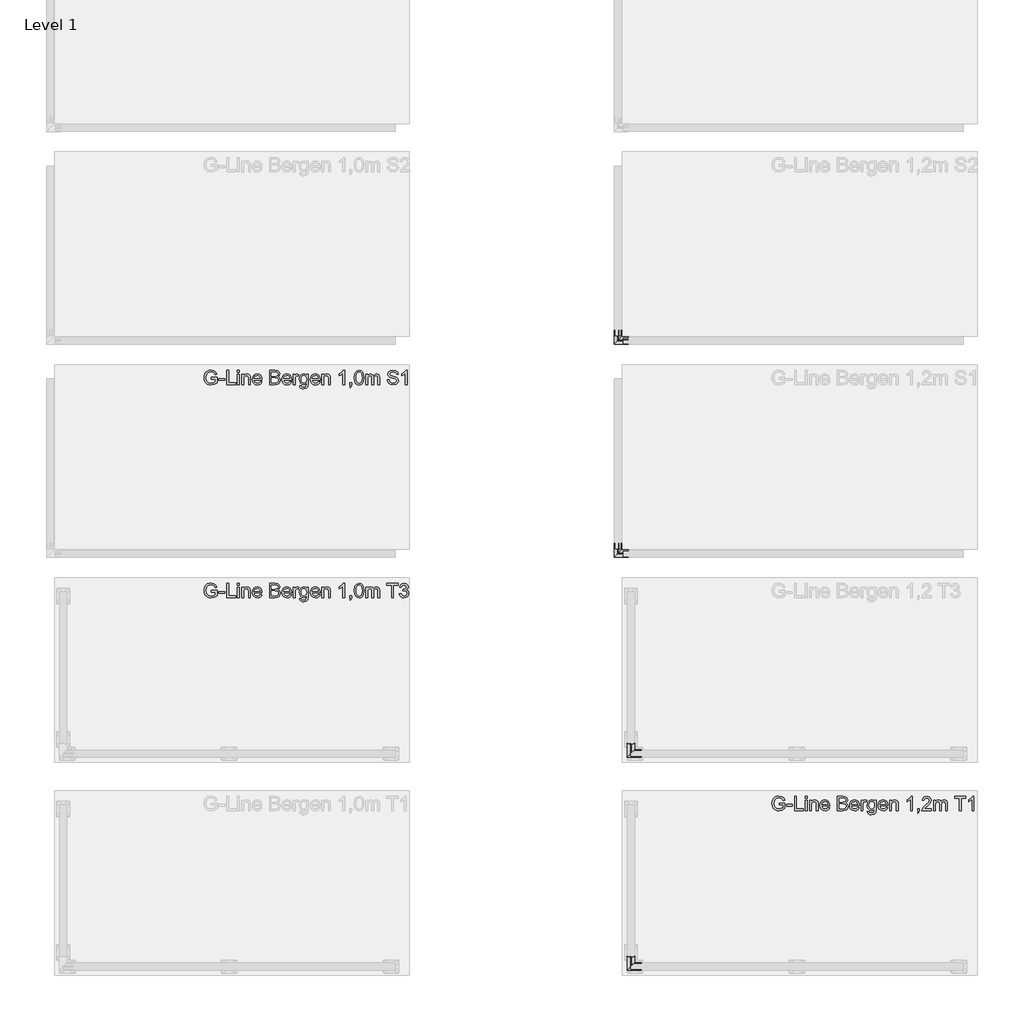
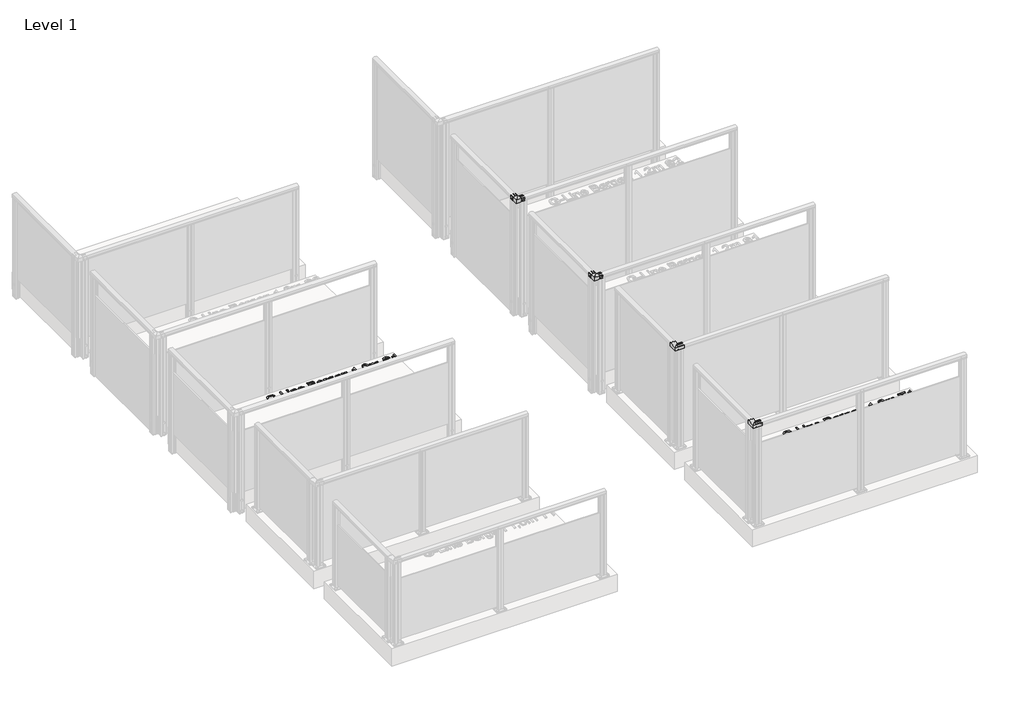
# One storey, part 53 of 66: 7 proxies.
"""IFC4 building model written with IfcOpenShell, lengths in millimetres."""

from ifc_helpers import new_model, si_unit, origin, origin_with_axes, place, context, project, spatial, polyline, outline, extrude, transform, mapped, element, save
from components import generic_models_029e0633

model = new_model("IFC4")

# Units and contexts
model_context = context("Model", 3, world=origin())
ifc_project = project(units=[si_unit("LENGTHUNIT", "METRE", prefix="MILLI")], contexts=[model_context])

# Site, building, storey
site = spatial("IfcSite", under=ifc_project)
building = spatial("IfcBuilding", under=site)
storey = spatial("IfcBuildingStorey", under=building, Name="Level 1", Elevation=0.0)

# Proxies
placement = place(None, origin())
generic_models_shape = generic_models_029e0633(model_context)
element("IfcBuildingElementProxy", 1, Name="Innore top rail 51x43 corner element : Innore top rail 51x43 element", ObjectType="Innore top rail 51x43 corner element : Innore top rail 51x43 element", at=placement, inside=storey, context=model_context, shape_type="MappedRepresentation", body=[
    mapped(generic_models_shape, transform((8556.5263105, -4420.1018151, 1200.0), x_axis=(0.0, -1.0, 0.0), y_axis=(1.0, 0.0, 0.0), z_axis=(0.0, 0.0, 1.0))),
])
element("IfcBuildingElementProxy", 2, Name="Innore top rail 51x43 corner element : Innore top rail 51x43 element", ObjectType="Innore top rail 51x43 corner element : Innore top rail 51x43 element", at=placement, inside=storey, context=model_context, shape_type="MappedRepresentation", body=[
    mapped(generic_models_shape, transform((8556.5263105, -2920.1018151, 1200.0), x_axis=(0.0, -1.0, 0.0), y_axis=(1.0, 0.0, 0.0), z_axis=(0.0, 0.0, 1.0))),
])
element("IfcBuildingElementProxy", 3, Name="Innore top rail 51x43 corner element : Innore top rail 51x43 element", ObjectType="Innore top rail 51x43 corner element : Innore top rail 51x43 element", at=placement, inside=storey, context=model_context, shape_type="MappedRepresentation", body=[
    mapped(generic_models_shape, transform((8466.5256066, -1511.0906302, 1200.0), x_axis=(0.0, -1.0, 0.0), y_axis=(1.0, 0.0, 0.0), z_axis=(0.0, 0.0, 1.0))),
])
element("IfcBuildingElementProxy", 4, Name="Innore top rail 51x43 corner element : Innore top rail 51x43 element", ObjectType="Innore top rail 51x43 corner element : Innore top rail 51x43 element", at=placement, inside=storey, context=model_context, shape_type="MappedRepresentation", body=[
    mapped(generic_models_shape, transform((8466.5256066, -11.0906302, 1200.0), x_axis=(0.0, -1.0, 0.0), y_axis=(1.0, 0.0, 0.0), z_axis=(0.0, 0.0, 1.0))),
])
element("IfcBuildingElementProxy", 5, Name="100mm Arial", ObjectType="100mm Arial", at=placement, inside=storey, context=model_context, shape_type="SweptSolid", body=[
    extrude(outline(polyline([(5601.1253773, -1781.8776559), (5601.1253773, -1769.3206172), (5641.9357533, -1769.3206172), (5641.9357533, -1806.8691061), (5621.7880827, -1818.7149064), (5600.4877152, -1822.6880319), (5586.4009005, -1821.109205), (5573.6691178, -1816.3727243), (5563.0925104, -1808.6441368), (5555.4712217, -1798.0889892), (5550.8634997, -1785.4277172), (5549.3275924, -1771.3807563), (5550.8573684, -1757.2326279), (5555.4466963, -1744.0716496), (5562.9055037, -1733.032124), (5573.0437184, -1725.2483541), (5585.3922907, -1720.6314351), (5599.4821711, -1719.0924621), (5619.1270696, -1722.6609174), (5632.898119, -1732.5937313), (5640.4887508, -1749.2097348), (5628.9127307, -1752.4716218), (5623.1860343, -1740.8588135), (5613.4003732, -1734.1633612), (5599.2859674, -1731.6495009), (5583.2095242, -1734.3595649), (5572.2711662, -1741.4719501), (5565.8087058, -1751.1472466), (5561.8846312, -1770.8657215), (5566.6057835, -1792.7547003), (5580.3400446, -1805.8512993), (5599.4821711, -1810.1309932), (5616.6622603, -1806.9058943), (5629.3787146, -1800.026501), (5629.3787146, -1781.8776559), (5601.1253773, -1781.8776559)])), origin_with_axes(), (0.0, 0.0, 1.0), 10.0),
    extrude(outline(polyline([(5654.4927921, -1791.295435), (5654.4927921, -1778.7383962), (5693.7335383, -1778.7383962), (5693.7335383, -1791.295435), (5654.4927921, -1791.295435)])), origin_with_axes(), (0.0, 0.0, 1.0), 10.0),
    extrude(outline(polyline([(5709.4298367, -1821.1184021), (5709.4298367, -1720.6620919), (5721.9868755, -1720.6620919), (5721.9868755, -1808.5613633), (5772.2150306, -1808.5613633), (5772.2150306, -1821.1184021), (5709.4298367, -1821.1184021)])), origin_with_axes(), (0.0, 0.0, 1.0), 10.0),
    extrude(outline(polyline([(5784.7720693, -1733.2191307), (5784.7720693, -1720.6620919), (5797.3291081, -1720.6620919), (5797.3291081, -1733.2191307), (5784.7720693, -1733.2191307)])), origin_with_axes(), (0.0, 0.0, 1.0), 10.0),
    extrude(outline(polyline([(5784.7720693, -1821.1184021), (5784.7720693, -1747.3457993), (5797.3291081, -1747.3457993), (5797.3291081, -1821.1184021), (5784.7720693, -1821.1184021)])), origin_with_axes(), (0.0, 0.0, 1.0), 10.0),
    extrude(outline(polyline([(5816.1646663, -1821.1184021), (5816.1646663, -1747.3457993), (5828.721705, -1747.3457993), (5828.721705, -1757.6464952), (5838.3234251, -1748.7437509), (5851.4322869, -1745.7761695), (5863.2903498, -1748.1674024), (5871.3837537, -1754.4459218), (5875.1484128, -1763.6797599), (5875.8106004, -1775.8198657), (5875.8106004, -1821.1184021), (5863.2535616, -1821.1184021), (5863.2535616, -1777.5121229), (5861.8065591, -1766.4020867), (5856.6929994, -1760.5282375), (5848.072298, -1758.3332082), (5834.4484014, -1763.262827), (5830.1533791, -1770.405869), (5828.721705, -1781.9757578), (5828.721705, -1821.1184021), (5816.1646663, -1821.1184021)])), origin_with_axes(), (0.0, 0.0, 1.0), 10.0),
    extrude(outline(polyline([(5944.7271608, -1799.1435842), (5957.0389449, -1800.7132141), (5952.6029012, -1809.9899717), (5945.5242385, -1816.9245473), (5935.9623723, -1821.2471608), (5924.0767182, -1822.6880319), (5909.3430443, -1820.2017628), (5898.0061474, -1812.7429553), (5890.7772662, -1800.7959875), (5888.3676392, -1784.8452374), (5890.8017917, -1768.3579926), (5898.1042493, -1756.0278144), (5909.287862, -1748.3390807), (5923.3654796, -1745.7761695), (5937.0047046, -1748.3329493), (5947.9032087, -1756.0032889), (5955.0493165, -1768.3089417), (5957.4313524, -1784.771661), (5957.357776, -1788.1561753), (5900.9246779, -1788.1561753), (5903.0982474, -1797.5555603), (5908.1474278, -1804.4656104), (5915.434557, -1808.7146475), (5924.3219728, -1810.1309932), (5936.6337569, -1807.5067683), (5944.7271608, -1799.1435842)]), holes=[polyline([(5900.9246779, -1775.5991365), (5944.8743136, -1775.5991365), (5939.846593, -1764.2193202), (5932.5257413, -1759.8047362), (5923.3164287, -1758.3332082), (5907.8531222, -1763.029835), (5902.9878828, -1768.5204738), (5900.9246779, -1775.5991365)])]), origin_with_axes(), (0.0, 0.0, 1.0), 10.0),
    extrude(outline(polyline([(6010.7987672, -1821.1184021), (6010.7987672, -1720.6620919), (6049.1320711, -1720.6620919), (6067.9063156, -1723.6174106), (6078.9918263, -1732.7040959), (6083.0017401, -1745.5554403), (6079.6294885, -1757.2908759), (6069.4391572, -1766.1813575), (6081.812255, -1775.5500856), (6086.1409998, -1791.1728077), (6083.1856811, -1804.6740769), (6075.8648294, -1814.2880597), (6064.9387341, -1819.3893567), (6048.8377655, -1821.1184021), (6010.7987672, -1821.1184021)]), holes=[polyline([(6023.3558059, -1761.4724679), (6046.287117, -1761.4724679), (6059.6780216, -1760.3933474), (6067.7346373, -1755.7457715), (6070.4447013, -1747.5665285), (6067.9185783, -1739.3750228), (6060.6835657, -1734.5312431), (6044.5458089, -1733.2191307), (6023.3558059, -1733.2191307), (6023.3558059, -1761.4724679)]), polyline([(6023.3558059, -1808.5613633), (6049.1075456, -1808.5613633), (6058.4272228, -1808.070854), (6066.3121602, -1805.3362645), (6071.5360846, -1799.7567209), (6073.583961, -1791.295435), (6071.1804653, -1781.5342994), (6063.3936297, -1775.7095011), (6047.8812723, -1774.0295067), (6023.3558059, -1774.0295067), (6023.3558059, -1808.5613633)])]), origin_with_axes(), (0.0, 0.0, 1.0), 10.0),
    extrude(outline(polyline([(6153.4879304, -1799.1435842), (6165.7997145, -1800.7132141), (6161.3636707, -1809.9899717), (6154.285008, -1816.9245473), (6144.7231418, -1821.2471608), (6132.8374877, -1822.6880319), (6118.1038138, -1820.2017628), (6106.766917, -1812.7429553), (6099.5380358, -1800.7959875), (6097.1284087, -1784.8452374), (6099.5625612, -1768.3579926), (6106.8650188, -1756.0278144), (6118.0486315, -1748.3390807), (6132.1262492, -1745.7761695), (6145.7654741, -1748.3329493), (6156.6639783, -1756.0032889), (6163.810086, -1768.3089417), (6166.1921219, -1784.771661), (6166.1185455, -1788.1561753), (6109.6854475, -1788.1561753), (6111.8590169, -1797.5555603), (6116.9081973, -1804.4656104), (6124.1953265, -1808.7146475), (6133.0827424, -1810.1309932), (6145.3945265, -1807.5067683), (6153.4879304, -1799.1435842)]), holes=[polyline([(6109.6854475, -1775.5991365), (6153.6350832, -1775.5991365), (6148.6073626, -1764.2193202), (6141.2865109, -1759.8047362), (6132.0771982, -1758.3332082), (6116.6138917, -1763.029835), (6111.7486523, -1768.5204738), (6109.6854475, -1775.5991365)])]), origin_with_axes(), (0.0, 0.0, 1.0), 10.0),
    extrude(outline(polyline([(6178.7491607, -1821.1184021), (6178.7491607, -1747.3457993), (6189.7365696, -1747.3457993), (6189.7365696, -1758.2596318), (6197.5356679, -1748.2041906), (6205.3838171, -1745.7761695), (6217.9899068, -1749.6511932), (6213.7960521, -1760.9083822), (6204.9668842, -1758.3332082), (6197.8667617, -1760.8102803), (6193.3418132, -1767.6774109), (6191.3061995, -1782.3436398), (6191.3061995, -1821.1184021), (6178.7491607, -1821.1184021)])), origin_with_axes(), (0.0, 0.0, 1.0), 10.0),
    extrude(outline(polyline([(6222.6987964, -1827.3969215), (6235.2558352, -1828.9665513), (6239.3270626, -1835.5884272), (6251.5162193, -1838.3843304), (6264.3675637, -1835.2205452), (6270.4989303, -1826.3423264), (6271.3573216, -1811.700623), (6262.515891, -1818.7639573), (6251.7369485, -1821.1184021), (6238.790568, -1818.3776812), (6229.1367313, -1810.1555186), (6223.1310577, -1798.1012519), (6221.1291665, -1783.8642187), (6224.7221474, -1764.4032612), (6235.1209451, -1750.6322118), (6251.1238119, -1745.7761695), (6262.3258186, -1748.5230217), (6271.3573216, -1756.7635784), (6271.3573216, -1747.3457993), (6283.9143604, -1747.3457993), (6283.9143604, -1811.0384354), (6280.4807951, -1835.4290117), (6269.6037508, -1846.7720399), (6251.2709647, -1850.9413692), (6239.5876456, -1849.4729069), (6230.3875301, -1845.06752), (6224.4860897, -1837.7129457), (6222.6987964, -1827.3969215)]), holes=[polyline([(6233.6862053, -1783.0058274), (6235.0259089, -1794.5235995), (6239.0450197, -1802.4422595), (6245.0874815, -1807.0315873), (6252.497238, -1808.5613633), (6259.8518122, -1807.0407844), (6265.9249308, -1802.4790477), (6269.9992239, -1794.6615553), (6271.3573216, -1783.3737094), (6269.95937, -1772.487468), (6265.7655153, -1764.6485158), (6259.6034919, -1759.9120351), (6252.3010343, -1758.3332082), (6245.130401, -1759.8875097), (6239.1185961, -1764.550414), (6235.044303, -1772.2728702), (6233.6862053, -1783.0058274)])]), origin_with_axes(), (0.0, 0.0, 1.0), 10.0),
    extrude(outline(polyline([(6354.4005507, -1799.1435842), (6366.7123348, -1800.7132141), (6362.276291, -1809.9899717), (6355.1976283, -1816.9245473), (6345.6357621, -1821.2471608), (6333.750108, -1822.6880319), (6319.0164341, -1820.2017628), (6307.6795373, -1812.7429553), (6300.4506561, -1800.7959875), (6298.041029, -1784.8452374), (6300.4751815, -1768.3579926), (6307.7776391, -1756.0278144), (6318.9612518, -1748.3390807), (6333.0388695, -1745.7761695), (6346.6780944, -1748.3329493), (6357.5765986, -1756.0032889), (6364.7227063, -1768.3089417), (6367.1047422, -1784.771661), (6367.0311658, -1788.1561753), (6310.5980678, -1788.1561753), (6312.7716372, -1797.5555603), (6317.8208176, -1804.4656104), (6325.1079468, -1808.7146475), (6333.9953627, -1810.1309932), (6346.3071468, -1807.5067683), (6354.4005507, -1799.1435842)]), holes=[polyline([(6310.5980678, -1775.5991365), (6354.5477035, -1775.5991365), (6349.5199829, -1764.2193202), (6342.1991312, -1759.8047362), (6332.9898185, -1758.3332082), (6317.526512, -1763.029835), (6312.6612726, -1768.5204738), (6310.5980678, -1775.5991365)])]), origin_with_axes(), (0.0, 0.0, 1.0), 10.0),
    extrude(outline(polyline([(6379.661781, -1821.1184021), (6379.661781, -1747.3457993), (6392.2188198, -1747.3457993), (6392.2188198, -1757.6464952), (6401.8205398, -1748.7437509), (6414.9294016, -1745.7761695), (6426.7874646, -1748.1674024), (6434.8808685, -1754.4459218), (6438.6455276, -1763.6797599), (6439.3077151, -1775.8198657), (6439.3077151, -1821.1184021), (6426.7506764, -1821.1184021), (6426.7506764, -1777.5121229), (6425.3036739, -1766.4020867), (6420.1901141, -1760.5282375), (6411.5694127, -1758.3332082), (6397.9455162, -1763.262827), (6393.6504939, -1770.405869), (6392.2188198, -1781.9757578), (6392.2188198, -1821.1184021), (6379.661781, -1821.1184021)])), origin_with_axes(), (0.0, 0.0, 1.0), 10.0),
    extrude(outline(polyline([(6539.7640253, -1821.1184021), (6527.2069865, -1821.1184021), (6527.2069865, -1742.8331135), (6515.3121354, -1751.3066621), (6502.092909, -1757.6464952), (6502.092909, -1745.7761695), (6520.4992715, -1734.0284711), (6531.6706214, -1720.6620919), (6539.7640253, -1720.6620919), (6539.7640253, -1821.1184021)])), origin_with_axes(), (0.0, 0.0, 1.0), 10.0),
    extrude(outline(polyline([(6575.8655118, -1821.1184021), (6575.8655118, -1808.5613633), (6588.4225505, -1808.5613633), (6588.4225505, -1821.1184021), (6586.1662076, -1833.9574837), (6579.0047714, -1841.5235901), (6575.8655118, -1836.8147005), (6580.4762994, -1831.3945725), (6582.1195057, -1821.1184021), (6575.8655118, -1821.1184021)])), origin_with_axes(), (0.0, 0.0, 1.0), 10.0),
    extrude(outline(polyline([(6608.8277385, -1771.6995874), (6612.5188212, -1742.7963253), (6623.4817047, -1726.1312709), (6641.7899653, -1720.6620919), (6656.4561942, -1723.8994535), (6666.5852118, -1733.2313934), (6672.4713237, -1748.093826), (6674.7521921, -1771.6995874), (6671.0978976, -1800.4802222), (6660.1718023, -1817.1820647), (6651.9404427, -1821.3115401), (6641.7899653, -1822.6880319), (6628.7424172, -1820.296799), (6618.8341288, -1813.1231001), (6611.3293361, -1796.1330832), (6608.8277385, -1771.6995874)]), holes=[polyline([(6621.3847773, -1771.6750619), (6622.8563053, -1791.4272594), (6627.2708892, -1802.8591924), (6633.8437142, -1808.313043), (6641.7899653, -1810.1309932), (6649.7362164, -1808.3069116), (6656.3090414, -1802.8346669), (6660.7236253, -1791.3966026), (6662.1951533, -1771.6750619), (6660.7726762, -1752.3673885), (6656.5052451, -1740.8465507), (6649.9446829, -1735.1259857), (6641.6428125, -1733.2191307), (6633.7824005, -1734.8991251), (6627.4670929, -1739.9391085), (6622.9053562, -1752.1773162), (6621.3847773, -1771.6750619)])]), origin_with_axes(), (0.0, 0.0, 1.0), 10.0),
    extrude(outline(polyline([(6688.8788607, -1821.1184021), (6688.8788607, -1747.3457993), (6701.4358994, -1747.3457993), (6701.4358994, -1759.4859052), (6710.0688636, -1749.5408286), (6722.3561222, -1745.7761695), (6734.9376865, -1749.614405), (6741.853868, -1760.3688219), (6751.6517918, -1749.4243326), (6764.0248896, -1745.7761695), (6773.4641284, -1747.2936827), (6780.4446893, -1751.8462224), (6784.7581057, -1759.5564159), (6786.1959111, -1770.5468905), (6786.1959111, -1821.1184021), (6773.6388724, -1821.1184021), (6773.6388724, -1775.9424931), (6772.4739127, -1765.4578562), (6768.2555325, -1760.2952455), (6761.0818336, -1758.3332082), (6748.7332613, -1763.3609288), (6745.0452443, -1769.903097), (6743.8159053, -1779.4741602), (6743.8159053, -1821.1184021), (6731.2588665, -1821.1184021), (6731.2588665, -1774.5445415), (6728.3525988, -1762.3799102), (6718.8244551, -1758.3332082), (6709.5293033, -1761.0310095), (6703.3488858, -1768.9282097), (6701.4358994, -1783.9132696), (6701.4358994, -1821.1184021), (6688.8788607, -1821.1184021)])), origin_with_axes(), (0.0, 0.0, 1.0), 10.0),
    extrude(outline(polyline([(6870.9559228, -1821.1184021), (6870.9559228, -1733.2191307), (6837.9936961, -1733.2191307), (6837.9936961, -1720.6620919), (6916.4751884, -1720.6620919), (6916.4751884, -1733.2191307), (6883.5129616, -1733.2191307), (6883.5129616, -1821.1184021), (6870.9559228, -1821.1184021)])), origin_with_axes(), (0.0, 0.0, 1.0), 10.0),
    extrude(outline(polyline([(6925.8929674, -1794.4346947), (6938.4500062, -1792.8650649), (6945.3784504, -1806.0842912), (6958.3401594, -1810.1309932), (6966.9485981, -1808.7391729), (6973.5949995, -1804.5637123), (6979.2603822, -1790.7804002), (6973.6440504, -1777.7941658), (6959.370229, -1772.6560806), (6950.5655866, -1774.0295067), (6951.9635382, -1761.4724679), (6953.9746264, -1761.6196207), (6968.2239223, -1758.0143772), (6972.9696001, -1753.4403777), (6974.5514927, -1746.9288664), (6969.9652305, -1737.1064171), (6958.1439557, -1733.2191307), (6946.1755281, -1737.1432053), (6940.019636, -1748.9154292), (6927.4625973, -1747.3457993), (6931.1598113, -1736.0702162), (6937.7387677, -1727.6518498), (6946.7396138, -1722.4095314), (6957.7024973, -1720.6620919), (6972.8469728, -1724.10792), (6983.4419742, -1733.525699), (6987.1085314, -1746.1931024), (6983.6259152, -1757.7691225), (6973.3252193, -1766.0832556), (6987.0104296, -1774.6671688), (6991.817421, -1791.0011294), (6989.4139253, -1803.2393371), (6982.2034382, -1813.4664566), (6971.3202625, -1820.3826381), (6957.898701, -1822.6880319), (6945.7585952, -1820.7198633), (6935.8748322, -1814.8153572), (6929.0015703, -1805.7838542), (6925.8929674, -1794.4346947)])), origin_with_axes(), (0.0, 0.0, 1.0), 10.0),
])
element("IfcBuildingElementProxy", 6, Name="100mm Arial", ObjectType="100mm Arial", at=placement, inside=storey, context=model_context, shape_type="SweptSolid", body=[
    extrude(outline(polyline([(5601.1253773, -281.8776559), (5601.1253773, -269.3206172), (5641.9357533, -269.3206172), (5641.9357533, -306.8691061), (5621.7880827, -318.7149064), (5600.4877152, -322.6880319), (5586.4009005, -321.109205), (5573.6691178, -316.3727243), (5563.0925104, -308.6441368), (5555.4712217, -298.0889892), (5550.8634997, -285.4277172), (5549.3275924, -271.3807563), (5550.8573684, -257.2326279), (5555.4466963, -244.0716496), (5562.9055037, -233.032124), (5573.0437184, -225.2483541), (5585.3922907, -220.6314351), (5599.4821711, -219.0924621), (5619.1270696, -222.6609174), (5632.898119, -232.5937313), (5640.4887508, -249.2097348), (5628.9127307, -252.4716218), (5623.1860343, -240.8588135), (5613.4003732, -234.1633612), (5599.2859674, -231.6495009), (5583.2095242, -234.3595649), (5572.2711662, -241.4719501), (5565.8087058, -251.1472466), (5561.8846312, -270.8657215), (5566.6057835, -292.7547003), (5580.3400446, -305.8512993), (5599.4821711, -310.1309932), (5616.6622603, -306.9058943), (5629.3787146, -300.026501), (5629.3787146, -281.8776559), (5601.1253773, -281.8776559)])), origin_with_axes(), (0.0, 0.0, 1.0), 10.0),
    extrude(outline(polyline([(5654.4927921, -291.295435), (5654.4927921, -278.7383962), (5693.7335383, -278.7383962), (5693.7335383, -291.295435), (5654.4927921, -291.295435)])), origin_with_axes(), (0.0, 0.0, 1.0), 10.0),
    extrude(outline(polyline([(5709.4298367, -321.1184021), (5709.4298367, -220.6620919), (5721.9868755, -220.6620919), (5721.9868755, -308.5613633), (5772.2150306, -308.5613633), (5772.2150306, -321.1184021), (5709.4298367, -321.1184021)])), origin_with_axes(), (0.0, 0.0, 1.0), 10.0),
    extrude(outline(polyline([(5784.7720693, -233.2191307), (5784.7720693, -220.6620919), (5797.3291081, -220.6620919), (5797.3291081, -233.2191307), (5784.7720693, -233.2191307)])), origin_with_axes(), (0.0, 0.0, 1.0), 10.0),
    extrude(outline(polyline([(5784.7720693, -321.1184021), (5784.7720693, -247.3457993), (5797.3291081, -247.3457993), (5797.3291081, -321.1184021), (5784.7720693, -321.1184021)])), origin_with_axes(), (0.0, 0.0, 1.0), 10.0),
    extrude(outline(polyline([(5816.1646663, -321.1184021), (5816.1646663, -247.3457993), (5828.721705, -247.3457993), (5828.721705, -257.6464952), (5838.3234251, -248.7437509), (5851.4322869, -245.7761695), (5863.2903498, -248.1674024), (5871.3837537, -254.4459218), (5875.1484128, -263.6797599), (5875.8106004, -275.8198657), (5875.8106004, -321.1184021), (5863.2535616, -321.1184021), (5863.2535616, -277.5121229), (5861.8065591, -266.4020867), (5856.6929994, -260.5282375), (5848.072298, -258.3332082), (5834.4484014, -263.262827), (5830.1533791, -270.405869), (5828.721705, -281.9757578), (5828.721705, -321.1184021), (5816.1646663, -321.1184021)])), origin_with_axes(), (0.0, 0.0, 1.0), 10.0),
    extrude(outline(polyline([(5944.7271608, -299.1435842), (5957.0389449, -300.7132141), (5952.6029012, -309.9899717), (5945.5242385, -316.9245473), (5935.9623723, -321.2471608), (5924.0767182, -322.6880319), (5909.3430443, -320.2017628), (5898.0061474, -312.7429553), (5890.7772662, -300.7959875), (5888.3676392, -284.8452374), (5890.8017917, -268.3579926), (5898.1042493, -256.0278144), (5909.287862, -248.3390807), (5923.3654796, -245.7761695), (5937.0047046, -248.3329493), (5947.9032087, -256.0032889), (5955.0493165, -268.3089417), (5957.4313524, -284.771661), (5957.357776, -288.1561753), (5900.9246779, -288.1561753), (5903.0982474, -297.5555603), (5908.1474278, -304.4656104), (5915.434557, -308.7146475), (5924.3219728, -310.1309932), (5936.6337569, -307.5067683), (5944.7271608, -299.1435842)]), holes=[polyline([(5900.9246779, -275.5991365), (5944.8743136, -275.5991365), (5939.846593, -264.2193202), (5932.5257413, -259.8047362), (5923.3164287, -258.3332082), (5907.8531222, -263.029835), (5902.9878828, -268.5204738), (5900.9246779, -275.5991365)])]), origin_with_axes(), (0.0, 0.0, 1.0), 10.0),
    extrude(outline(polyline([(6010.7987672, -321.1184021), (6010.7987672, -220.6620919), (6049.1320711, -220.6620919), (6067.9063156, -223.6174106), (6078.9918263, -232.7040959), (6083.0017401, -245.5554403), (6079.6294885, -257.2908759), (6069.4391572, -266.1813575), (6081.812255, -275.5500856), (6086.1409998, -291.1728077), (6083.1856811, -304.6740769), (6075.8648294, -314.2880597), (6064.9387341, -319.3893567), (6048.8377655, -321.1184021), (6010.7987672, -321.1184021)]), holes=[polyline([(6023.3558059, -261.4724679), (6046.287117, -261.4724679), (6059.6780216, -260.3933474), (6067.7346373, -255.7457715), (6070.4447013, -247.5665285), (6067.9185783, -239.3750228), (6060.6835657, -234.5312431), (6044.5458089, -233.2191307), (6023.3558059, -233.2191307), (6023.3558059, -261.4724679)]), polyline([(6023.3558059, -308.5613633), (6049.1075456, -308.5613633), (6058.4272228, -308.070854), (6066.3121602, -305.3362645), (6071.5360846, -299.7567209), (6073.583961, -291.295435), (6071.1804653, -281.5342994), (6063.3936297, -275.7095011), (6047.8812723, -274.0295067), (6023.3558059, -274.0295067), (6023.3558059, -308.5613633)])]), origin_with_axes(), (0.0, 0.0, 1.0), 10.0),
    extrude(outline(polyline([(6153.4879304, -299.1435842), (6165.7997145, -300.7132141), (6161.3636707, -309.9899717), (6154.285008, -316.9245473), (6144.7231418, -321.2471608), (6132.8374877, -322.6880319), (6118.1038138, -320.2017628), (6106.766917, -312.7429553), (6099.5380358, -300.7959875), (6097.1284087, -284.8452374), (6099.5625612, -268.3579926), (6106.8650188, -256.0278144), (6118.0486315, -248.3390807), (6132.1262492, -245.7761695), (6145.7654741, -248.3329493), (6156.6639783, -256.0032889), (6163.810086, -268.3089417), (6166.1921219, -284.771661), (6166.1185455, -288.1561753), (6109.6854475, -288.1561753), (6111.8590169, -297.5555603), (6116.9081973, -304.4656104), (6124.1953265, -308.7146475), (6133.0827424, -310.1309932), (6145.3945265, -307.5067683), (6153.4879304, -299.1435842)]), holes=[polyline([(6109.6854475, -275.5991365), (6153.6350832, -275.5991365), (6148.6073626, -264.2193202), (6141.2865109, -259.8047362), (6132.0771982, -258.3332082), (6116.6138917, -263.029835), (6111.7486523, -268.5204738), (6109.6854475, -275.5991365)])]), origin_with_axes(), (0.0, 0.0, 1.0), 10.0),
    extrude(outline(polyline([(6178.7491607, -321.1184021), (6178.7491607, -247.3457993), (6189.7365696, -247.3457993), (6189.7365696, -258.2596318), (6197.5356679, -248.2041906), (6205.3838171, -245.7761695), (6217.9899068, -249.6511932), (6213.7960521, -260.9083822), (6204.9668842, -258.3332082), (6197.8667617, -260.8102803), (6193.3418132, -267.6774109), (6191.3061995, -282.3436398), (6191.3061995, -321.1184021), (6178.7491607, -321.1184021)])), origin_with_axes(), (0.0, 0.0, 1.0), 10.0),
    extrude(outline(polyline([(6222.6987964, -327.3969215), (6235.2558352, -328.9665513), (6239.3270626, -335.5884272), (6251.5162193, -338.3843304), (6264.3675637, -335.2205452), (6270.4989303, -326.3423264), (6271.3573216, -311.700623), (6262.515891, -318.7639573), (6251.7369485, -321.1184021), (6238.790568, -318.3776812), (6229.1367313, -310.1555186), (6223.1310577, -298.1012519), (6221.1291665, -283.8642187), (6224.7221474, -264.4032612), (6235.1209451, -250.6322118), (6251.1238119, -245.7761695), (6262.3258186, -248.5230217), (6271.3573216, -256.7635784), (6271.3573216, -247.3457993), (6283.9143604, -247.3457993), (6283.9143604, -311.0384354), (6280.4807951, -335.4290117), (6269.6037508, -346.7720399), (6251.2709647, -350.9413692), (6239.5876456, -349.4729069), (6230.3875301, -345.06752), (6224.4860897, -337.7129457), (6222.6987964, -327.3969215)]), holes=[polyline([(6233.6862053, -283.0058274), (6235.0259089, -294.5235995), (6239.0450197, -302.4422595), (6245.0874815, -307.0315873), (6252.497238, -308.5613633), (6259.8518122, -307.0407844), (6265.9249308, -302.4790477), (6269.9992239, -294.6615553), (6271.3573216, -283.3737094), (6269.95937, -272.487468), (6265.7655153, -264.6485158), (6259.6034919, -259.9120351), (6252.3010343, -258.3332082), (6245.130401, -259.8875097), (6239.1185961, -264.550414), (6235.044303, -272.2728702), (6233.6862053, -283.0058274)])]), origin_with_axes(), (0.0, 0.0, 1.0), 10.0),
    extrude(outline(polyline([(6354.4005507, -299.1435842), (6366.7123348, -300.7132141), (6362.276291, -309.9899717), (6355.1976283, -316.9245473), (6345.6357621, -321.2471608), (6333.750108, -322.6880319), (6319.0164341, -320.2017628), (6307.6795373, -312.7429553), (6300.4506561, -300.7959875), (6298.041029, -284.8452374), (6300.4751815, -268.3579926), (6307.7776391, -256.0278144), (6318.9612518, -248.3390807), (6333.0388695, -245.7761695), (6346.6780944, -248.3329493), (6357.5765986, -256.0032889), (6364.7227063, -268.3089417), (6367.1047422, -284.771661), (6367.0311658, -288.1561753), (6310.5980678, -288.1561753), (6312.7716372, -297.5555603), (6317.8208176, -304.4656104), (6325.1079468, -308.7146475), (6333.9953627, -310.1309932), (6346.3071468, -307.5067683), (6354.4005507, -299.1435842)]), holes=[polyline([(6310.5980678, -275.5991365), (6354.5477035, -275.5991365), (6349.5199829, -264.2193202), (6342.1991312, -259.8047362), (6332.9898185, -258.3332082), (6317.526512, -263.029835), (6312.6612726, -268.5204738), (6310.5980678, -275.5991365)])]), origin_with_axes(), (0.0, 0.0, 1.0), 10.0),
    extrude(outline(polyline([(6379.661781, -321.1184021), (6379.661781, -247.3457993), (6392.2188198, -247.3457993), (6392.2188198, -257.6464952), (6401.8205398, -248.7437509), (6414.9294016, -245.7761695), (6426.7874646, -248.1674024), (6434.8808685, -254.4459218), (6438.6455276, -263.6797599), (6439.3077151, -275.8198657), (6439.3077151, -321.1184021), (6426.7506764, -321.1184021), (6426.7506764, -277.5121229), (6425.3036739, -266.4020867), (6420.1901141, -260.5282375), (6411.5694127, -258.3332082), (6397.9455162, -263.262827), (6393.6504939, -270.405869), (6392.2188198, -281.9757578), (6392.2188198, -321.1184021), (6379.661781, -321.1184021)])), origin_with_axes(), (0.0, 0.0, 1.0), 10.0),
    extrude(outline(polyline([(6539.7640253, -321.1184021), (6527.2069865, -321.1184021), (6527.2069865, -242.8331135), (6515.3121354, -251.3066621), (6502.092909, -257.6464952), (6502.092909, -245.7761695), (6520.4992715, -234.0284711), (6531.6706214, -220.6620919), (6539.7640253, -220.6620919), (6539.7640253, -321.1184021)])), origin_with_axes(), (0.0, 0.0, 1.0), 10.0),
    extrude(outline(polyline([(6575.8655118, -321.1184021), (6575.8655118, -308.5613633), (6588.4225505, -308.5613633), (6588.4225505, -321.1184021), (6586.1662076, -333.9574837), (6579.0047714, -341.5235901), (6575.8655118, -336.8147005), (6580.4762994, -331.3945725), (6582.1195057, -321.1184021), (6575.8655118, -321.1184021)])), origin_with_axes(), (0.0, 0.0, 1.0), 10.0),
    extrude(outline(polyline([(6608.8277385, -271.6995874), (6612.5188212, -242.7963253), (6623.4817047, -226.1312709), (6641.7899653, -220.6620919), (6656.4561942, -223.8994535), (6666.5852118, -233.2313934), (6672.4713237, -248.093826), (6674.7521921, -271.6995874), (6671.0978976, -300.4802222), (6660.1718023, -317.1820647), (6651.9404427, -321.3115401), (6641.7899653, -322.6880319), (6628.7424172, -320.296799), (6618.8341288, -313.1231001), (6611.3293361, -296.1330832), (6608.8277385, -271.6995874)]), holes=[polyline([(6621.3847773, -271.6750619), (6622.8563053, -291.4272594), (6627.2708892, -302.8591924), (6633.8437142, -308.313043), (6641.7899653, -310.1309932), (6649.7362164, -308.3069116), (6656.3090414, -302.8346669), (6660.7236253, -291.3966026), (6662.1951533, -271.6750619), (6660.7726762, -252.3673885), (6656.5052451, -240.8465507), (6649.9446829, -235.1259857), (6641.6428125, -233.2191307), (6633.7824005, -234.8991251), (6627.4670929, -239.9391085), (6622.9053562, -252.1773162), (6621.3847773, -271.6750619)])]), origin_with_axes(), (0.0, 0.0, 1.0), 10.0),
    extrude(outline(polyline([(6688.8788607, -321.1184021), (6688.8788607, -247.3457993), (6701.4358994, -247.3457993), (6701.4358994, -259.4859052), (6710.0688636, -249.5408286), (6722.3561222, -245.7761695), (6734.9376865, -249.614405), (6741.853868, -260.3688219), (6751.6517918, -249.4243326), (6764.0248896, -245.7761695), (6773.4641284, -247.2936827), (6780.4446893, -251.8462224), (6784.7581057, -259.5564159), (6786.1959111, -270.5468905), (6786.1959111, -321.1184021), (6773.6388724, -321.1184021), (6773.6388724, -275.9424931), (6772.4739127, -265.4578562), (6768.2555325, -260.2952455), (6761.0818336, -258.3332082), (6748.7332613, -263.3609288), (6745.0452443, -269.903097), (6743.8159053, -279.4741602), (6743.8159053, -321.1184021), (6731.2588665, -321.1184021), (6731.2588665, -274.5445415), (6728.3525988, -262.3799102), (6718.8244551, -258.3332082), (6709.5293033, -261.0310095), (6703.3488858, -268.9282097), (6701.4358994, -283.9132696), (6701.4358994, -321.1184021), (6688.8788607, -321.1184021)])), origin_with_axes(), (0.0, 0.0, 1.0), 10.0),
    extrude(outline(polyline([(6841.1329557, -286.5865455), (6853.6899945, -286.5865455), (6857.7366965, -299.155847), (6867.6204594, -307.1020981), (6882.6790957, -310.1309932), (6895.8002202, -307.8378621), (6904.2737689, -301.5348172), (6907.0574093, -293.1103195), (6904.9727446, -285.274433), (6896.4378824, -279.5722621), (6878.1541472, -274.7775334), (6858.4724605, -268.5848532), (6847.7916199, -259.2406505), (6844.2722154, -246.7571881), (6848.6254857, -232.5446804), (6861.34194, -222.5137646), (6879.956769, -219.0924621), (6899.8223967, -222.6731802), (6913.0661485, -233.1946052), (6918.0448182, -248.9154292), (6905.4877794, -248.9154292), (6903.1823856, -241.4228992), (6898.3753942, -236.0150339), (6880.4472783, -231.6495009), (6862.4701115, -235.9659829), (6856.8292542, -246.3893061), (6860.8269052, -255.0958467), (6881.3301951, -262.1101301), (6903.5502676, -268.4131749), (6915.7026362, -278.5912434), (6919.6144481, -292.7914885), (6915.114025, -307.8133366), (6902.1645787, -318.77622), (6883.1696051, -322.6880319), (6860.7410661, -318.4696517), (6846.5530838, -305.7654601), (6841.1329557, -286.5865455)])), origin_with_axes(), (0.0, 0.0, 1.0), 10.0),
    extrude(outline(polyline([(6980.830012, -321.1184021), (6968.2729733, -321.1184021), (6968.2729733, -242.8331135), (6956.3781221, -251.3066621), (6943.1588957, -257.6464952), (6943.1588957, -245.7761695), (6961.5652582, -234.0284711), (6972.7366082, -220.6620919), (6980.830012, -220.6620919), (6980.830012, -321.1184021)])), origin_with_axes(), (0.0, 0.0, 1.0), 10.0),
])
element("IfcBuildingElementProxy", 7, Name="100mm Arial", ObjectType="100mm Arial", at=placement, inside=storey, context=model_context, shape_type="SweptSolid", body=[
    extrude(outline(polyline([(9601.1253773, -3281.8776559), (9601.1253773, -3269.3206172), (9641.9357533, -3269.3206172), (9641.9357533, -3306.8691061), (9621.7880827, -3318.7149064), (9600.4877152, -3322.6880319), (9586.4009005, -3321.109205), (9573.6691178, -3316.3727243), (9563.0925104, -3308.6441368), (9555.4712217, -3298.0889892), (9550.8634997, -3285.4277172), (9549.3275924, -3271.3807563), (9550.8573684, -3257.2326279), (9555.4466963, -3244.0716496), (9562.9055037, -3233.032124), (9573.0437184, -3225.2483541), (9585.3922907, -3220.6314351), (9599.4821711, -3219.0924621), (9619.1270696, -3222.6609174), (9632.898119, -3232.5937313), (9640.4887508, -3249.2097348), (9628.9127307, -3252.4716218), (9623.1860343, -3240.8588135), (9613.4003732, -3234.1633612), (9599.2859674, -3231.6495009), (9583.2095242, -3234.3595649), (9572.2711662, -3241.4719501), (9565.8087058, -3251.1472466), (9561.8846312, -3270.8657215), (9566.6057835, -3292.7547003), (9580.3400446, -3305.8512993), (9599.4821711, -3310.1309932), (9616.6622603, -3306.9058943), (9629.3787146, -3300.026501), (9629.3787146, -3281.8776559), (9601.1253773, -3281.8776559)])), origin_with_axes(), (0.0, 0.0, 1.0), 10.0),
    extrude(outline(polyline([(9654.4927921, -3291.295435), (9654.4927921, -3278.7383962), (9693.7335383, -3278.7383962), (9693.7335383, -3291.295435), (9654.4927921, -3291.295435)])), origin_with_axes(), (0.0, 0.0, 1.0), 10.0),
    extrude(outline(polyline([(9709.4298367, -3321.1184021), (9709.4298367, -3220.6620919), (9721.9868755, -3220.6620919), (9721.9868755, -3308.5613633), (9772.2150306, -3308.5613633), (9772.2150306, -3321.1184021), (9709.4298367, -3321.1184021)])), origin_with_axes(), (0.0, 0.0, 1.0), 10.0),
    extrude(outline(polyline([(9784.7720693, -3233.2191307), (9784.7720693, -3220.6620919), (9797.3291081, -3220.6620919), (9797.3291081, -3233.2191307), (9784.7720693, -3233.2191307)])), origin_with_axes(), (0.0, 0.0, 1.0), 10.0),
    extrude(outline(polyline([(9784.7720693, -3321.1184021), (9784.7720693, -3247.3457993), (9797.3291081, -3247.3457993), (9797.3291081, -3321.1184021), (9784.7720693, -3321.1184021)])), origin_with_axes(), (0.0, 0.0, 1.0), 10.0),
    extrude(outline(polyline([(9816.1646663, -3321.1184021), (9816.1646663, -3247.3457993), (9828.721705, -3247.3457993), (9828.721705, -3257.6464952), (9838.3234251, -3248.7437509), (9851.4322869, -3245.7761695), (9863.2903498, -3248.1674024), (9871.3837537, -3254.4459218), (9875.1484128, -3263.6797599), (9875.8106004, -3275.8198657), (9875.8106004, -3321.1184021), (9863.2535616, -3321.1184021), (9863.2535616, -3277.5121229), (9861.8065591, -3266.4020867), (9856.6929994, -3260.5282375), (9848.072298, -3258.3332082), (9834.4484014, -3263.262827), (9830.1533791, -3270.405869), (9828.721705, -3281.9757578), (9828.721705, -3321.1184021), (9816.1646663, -3321.1184021)])), origin_with_axes(), (0.0, 0.0, 1.0), 10.0),
    extrude(outline(polyline([(9944.7271608, -3299.1435842), (9957.0389449, -3300.7132141), (9952.6029012, -3309.9899717), (9945.5242385, -3316.9245473), (9935.9623723, -3321.2471608), (9924.0767182, -3322.6880319), (9909.3430443, -3320.2017628), (9898.0061474, -3312.7429553), (9890.7772662, -3300.7959875), (9888.3676392, -3284.8452374), (9890.8017917, -3268.3579926), (9898.1042493, -3256.0278144), (9909.287862, -3248.3390807), (9923.3654796, -3245.7761695), (9937.0047046, -3248.3329493), (9947.9032087, -3256.0032889), (9955.0493165, -3268.3089417), (9957.4313524, -3284.771661), (9957.357776, -3288.1561753), (9900.9246779, -3288.1561753), (9903.0982474, -3297.5555603), (9908.1474278, -3304.4656104), (9915.434557, -3308.7146475), (9924.3219728, -3310.1309932), (9936.6337569, -3307.5067683), (9944.7271608, -3299.1435842)]), holes=[polyline([(9900.9246779, -3275.5991365), (9944.8743136, -3275.5991365), (9939.846593, -3264.2193202), (9932.5257413, -3259.8047362), (9923.3164287, -3258.3332082), (9907.8531222, -3263.029835), (9902.9878828, -3268.5204738), (9900.9246779, -3275.5991365)])]), origin_with_axes(), (0.0, 0.0, 1.0), 10.0),
    extrude(outline(polyline([(10010.7987672, -3321.1184021), (10010.7987672, -3220.6620919), (10049.1320711, -3220.6620919), (10067.9063156, -3223.6174106), (10078.9918263, -3232.7040959), (10083.0017401, -3245.5554403), (10079.6294885, -3257.2908759), (10069.4391572, -3266.1813575), (10081.812255, -3275.5500856), (10086.1409998, -3291.1728077), (10083.1856811, -3304.6740769), (10075.8648294, -3314.2880597), (10064.9387341, -3319.3893567), (10048.8377655, -3321.1184021), (10010.7987672, -3321.1184021)]), holes=[polyline([(10023.3558059, -3261.4724679), (10046.287117, -3261.4724679), (10059.6780216, -3260.3933474), (10067.7346373, -3255.7457715), (10070.4447013, -3247.5665285), (10067.9185783, -3239.3750228), (10060.6835657, -3234.5312431), (10044.5458089, -3233.2191307), (10023.3558059, -3233.2191307), (10023.3558059, -3261.4724679)]), polyline([(10023.3558059, -3308.5613633), (10049.1075456, -3308.5613633), (10058.4272228, -3308.070854), (10066.3121602, -3305.3362645), (10071.5360846, -3299.7567209), (10073.583961, -3291.295435), (10071.1804653, -3281.5342994), (10063.3936297, -3275.7095011), (10047.8812723, -3274.0295067), (10023.3558059, -3274.0295067), (10023.3558059, -3308.5613633)])]), origin_with_axes(), (0.0, 0.0, 1.0), 10.0),
    extrude(outline(polyline([(10153.4879304, -3299.1435842), (10165.7997145, -3300.7132141), (10161.3636707, -3309.9899717), (10154.285008, -3316.9245473), (10144.7231418, -3321.2471608), (10132.8374877, -3322.6880319), (10118.1038138, -3320.2017628), (10106.766917, -3312.7429553), (10099.5380358, -3300.7959875), (10097.1284087, -3284.8452374), (10099.5625612, -3268.3579926), (10106.8650188, -3256.0278144), (10118.0486315, -3248.3390807), (10132.1262492, -3245.7761695), (10145.7654741, -3248.3329493), (10156.6639783, -3256.0032889), (10163.810086, -3268.3089417), (10166.1921219, -3284.771661), (10166.1185455, -3288.1561753), (10109.6854475, -3288.1561753), (10111.8590169, -3297.5555603), (10116.9081973, -3304.4656104), (10124.1953265, -3308.7146475), (10133.0827424, -3310.1309932), (10145.3945265, -3307.5067683), (10153.4879304, -3299.1435842)]), holes=[polyline([(10109.6854475, -3275.5991365), (10153.6350832, -3275.5991365), (10148.6073626, -3264.2193202), (10141.2865109, -3259.8047362), (10132.0771982, -3258.3332082), (10116.6138917, -3263.029835), (10111.7486523, -3268.5204738), (10109.6854475, -3275.5991365)])]), origin_with_axes(), (0.0, 0.0, 1.0), 10.0),
    extrude(outline(polyline([(10178.7491607, -3321.1184021), (10178.7491607, -3247.3457993), (10189.7365696, -3247.3457993), (10189.7365696, -3258.2596318), (10197.5356679, -3248.2041906), (10205.3838171, -3245.7761695), (10217.9899068, -3249.6511932), (10213.7960521, -3260.9083822), (10204.9668842, -3258.3332082), (10197.8667617, -3260.8102803), (10193.3418132, -3267.6774109), (10191.3061995, -3282.3436398), (10191.3061995, -3321.1184021), (10178.7491607, -3321.1184021)])), origin_with_axes(), (0.0, 0.0, 1.0), 10.0),
    extrude(outline(polyline([(10222.6987964, -3327.3969215), (10235.2558352, -3328.9665513), (10239.3270626, -3335.5884272), (10251.5162193, -3338.3843304), (10264.3675637, -3335.2205452), (10270.4989303, -3326.3423264), (10271.3573216, -3311.700623), (10262.515891, -3318.7639573), (10251.7369485, -3321.1184021), (10238.790568, -3318.3776812), (10229.1367313, -3310.1555186), (10223.1310577, -3298.1012519), (10221.1291665, -3283.8642187), (10224.7221474, -3264.4032612), (10235.1209451, -3250.6322118), (10251.1238119, -3245.7761695), (10262.3258186, -3248.5230217), (10271.3573216, -3256.7635784), (10271.3573216, -3247.3457993), (10283.9143604, -3247.3457993), (10283.9143604, -3311.0384354), (10280.4807951, -3335.4290117), (10269.6037508, -3346.7720399), (10251.2709647, -3350.9413692), (10239.5876456, -3349.4729069), (10230.3875301, -3345.06752), (10224.4860897, -3337.7129457), (10222.6987964, -3327.3969215)]), holes=[polyline([(10233.6862053, -3283.0058274), (10235.0259089, -3294.5235995), (10239.0450197, -3302.4422595), (10245.0874815, -3307.0315873), (10252.497238, -3308.5613633), (10259.8518122, -3307.0407844), (10265.9249308, -3302.4790477), (10269.9992239, -3294.6615553), (10271.3573216, -3283.3737094), (10269.95937, -3272.487468), (10265.7655153, -3264.6485158), (10259.6034919, -3259.9120351), (10252.3010343, -3258.3332082), (10245.130401, -3259.8875097), (10239.1185961, -3264.550414), (10235.044303, -3272.2728702), (10233.6862053, -3283.0058274)])]), origin_with_axes(), (0.0, 0.0, 1.0), 10.0),
    extrude(outline(polyline([(10354.4005507, -3299.1435842), (10366.7123348, -3300.7132141), (10362.276291, -3309.9899717), (10355.1976283, -3316.9245473), (10345.6357621, -3321.2471608), (10333.750108, -3322.6880319), (10319.0164341, -3320.2017628), (10307.6795373, -3312.7429553), (10300.4506561, -3300.7959875), (10298.041029, -3284.8452374), (10300.4751815, -3268.3579926), (10307.7776391, -3256.0278144), (10318.9612518, -3248.3390807), (10333.0388695, -3245.7761695), (10346.6780944, -3248.3329493), (10357.5765986, -3256.0032889), (10364.7227063, -3268.3089417), (10367.1047422, -3284.771661), (10367.0311658, -3288.1561753), (10310.5980678, -3288.1561753), (10312.7716372, -3297.5555603), (10317.8208176, -3304.4656104), (10325.1079468, -3308.7146475), (10333.9953627, -3310.1309932), (10346.3071468, -3307.5067683), (10354.4005507, -3299.1435842)]), holes=[polyline([(10310.5980678, -3275.5991365), (10354.5477035, -3275.5991365), (10349.5199829, -3264.2193202), (10342.1991312, -3259.8047362), (10332.9898185, -3258.3332082), (10317.526512, -3263.029835), (10312.6612726, -3268.5204738), (10310.5980678, -3275.5991365)])]), origin_with_axes(), (0.0, 0.0, 1.0), 10.0),
    extrude(outline(polyline([(10379.661781, -3321.1184021), (10379.661781, -3247.3457993), (10392.2188198, -3247.3457993), (10392.2188198, -3257.6464952), (10401.8205398, -3248.7437509), (10414.9294016, -3245.7761695), (10426.7874646, -3248.1674024), (10434.8808685, -3254.4459218), (10438.6455276, -3263.6797599), (10439.3077151, -3275.8198657), (10439.3077151, -3321.1184021), (10426.7506764, -3321.1184021), (10426.7506764, -3277.5121229), (10425.3036739, -3266.4020867), (10420.1901141, -3260.5282375), (10411.5694127, -3258.3332082), (10397.9455162, -3263.262827), (10393.6504939, -3270.405869), (10392.2188198, -3281.9757578), (10392.2188198, -3321.1184021), (10379.661781, -3321.1184021)])), origin_with_axes(), (0.0, 0.0, 1.0), 10.0),
    extrude(outline(polyline([(10539.7640253, -3321.1184021), (10527.2069865, -3321.1184021), (10527.2069865, -3242.8331135), (10515.3121354, -3251.3066621), (10502.092909, -3257.6464952), (10502.092909, -3245.7761695), (10520.4992715, -3234.0284711), (10531.6706214, -3220.6620919), (10539.7640253, -3220.6620919), (10539.7640253, -3321.1184021)])), origin_with_axes(), (0.0, 0.0, 1.0), 10.0),
    extrude(outline(polyline([(10575.8655118, -3321.1184021), (10575.8655118, -3308.5613633), (10588.4225505, -3308.5613633), (10588.4225505, -3321.1184021), (10586.1662076, -3333.9574837), (10579.0047714, -3341.5235901), (10575.8655118, -3336.8147005), (10580.4762994, -3331.3945725), (10582.1195057, -3321.1184021), (10575.8655118, -3321.1184021)])), origin_with_axes(), (0.0, 0.0, 1.0), 10.0),
    extrude(outline(polyline([(10673.1825622, -3308.5613633), (10673.1825622, -3321.1184021), (10607.2581087, -3321.1184021), (10608.6070093, -3312.4609125), (10616.2344294, -3299.1313215), (10631.9552533, -3284.5754572), (10653.6357655, -3263.6552344), (10659.0558936, -3249.430464), (10653.9423339, -3237.9157575), (10640.5882174, -3233.2191307), (10626.6700153, -3237.8053929), (10621.3847773, -3250.485059), (10608.8277385, -3248.9154292), (10611.871962, -3236.769192), (10618.4539841, -3227.8971045), (10628.2304481, -3222.4708451), (10640.8579976, -3220.6620919), (10653.5775176, -3222.6731802), (10663.3355875, -3228.7064449), (10669.5435961, -3237.7195538), (10671.6129324, -3248.6701745), (10669.3811149, -3260.5772884), (10661.9621614, -3272.8890725), (10643.9727318, -3290.0936872), (10629.5272321, -3302.1724793), (10623.8618494, -3308.5613633), (10673.1825622, -3308.5613633)])), origin_with_axes(), (0.0, 0.0, 1.0), 10.0),
    extrude(outline(polyline([(10688.8788607, -3321.1184021), (10688.8788607, -3247.3457993), (10701.4358994, -3247.3457993), (10701.4358994, -3259.4859052), (10710.0688636, -3249.5408286), (10722.3561222, -3245.7761695), (10734.9376865, -3249.614405), (10741.853868, -3260.3688219), (10751.6517918, -3249.4243326), (10764.0248896, -3245.7761695), (10773.4641284, -3247.2936827), (10780.4446893, -3251.8462224), (10784.7581057, -3259.5564159), (10786.1959111, -3270.5468905), (10786.1959111, -3321.1184021), (10773.6388724, -3321.1184021), (10773.6388724, -3275.9424931), (10772.4739127, -3265.4578562), (10768.2555325, -3260.2952455), (10761.0818336, -3258.3332082), (10748.7332613, -3263.3609288), (10745.0452443, -3269.903097), (10743.8159053, -3279.4741602), (10743.8159053, -3321.1184021), (10731.2588665, -3321.1184021), (10731.2588665, -3274.5445415), (10728.3525988, -3262.3799102), (10718.8244551, -3258.3332082), (10709.5293033, -3261.0310095), (10703.3488858, -3268.9282097), (10701.4358994, -3283.9132696), (10701.4358994, -3321.1184021), (10688.8788607, -3321.1184021)])), origin_with_axes(), (0.0, 0.0, 1.0), 10.0),
    extrude(outline(polyline([(10870.9559228, -3321.1184021), (10870.9559228, -3233.2191307), (10837.9936961, -3233.2191307), (10837.9936961, -3220.6620919), (10916.4751884, -3220.6620919), (10916.4751884, -3233.2191307), (10883.5129616, -3233.2191307), (10883.5129616, -3321.1184021), (10870.9559228, -3321.1184021)])), origin_with_axes(), (0.0, 0.0, 1.0), 10.0),
    extrude(outline(polyline([(10972.9818628, -3321.1184021), (10960.424824, -3321.1184021), (10960.424824, -3242.8331135), (10948.5299729, -3251.3066621), (10935.3107465, -3257.6464952), (10935.3107465, -3245.7761695), (10953.717109, -3234.0284711), (10964.8884589, -3220.6620919), (10972.9818628, -3220.6620919), (10972.9818628, -3321.1184021)])), origin_with_axes(), (0.0, 0.0, 1.0), 10.0),
])

save(model, "model.ifc")
